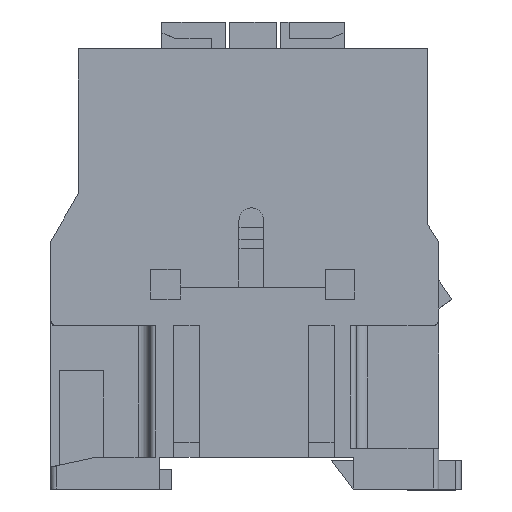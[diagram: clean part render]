
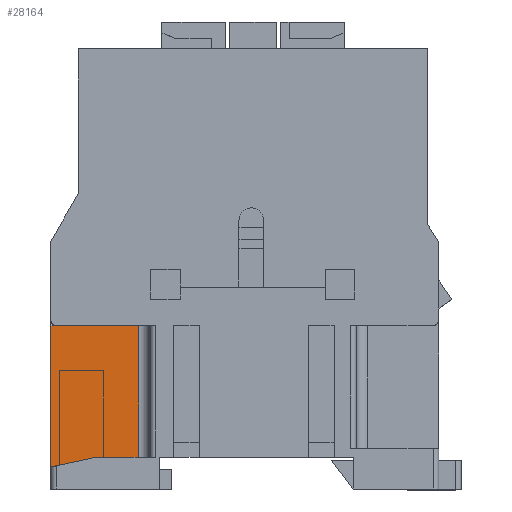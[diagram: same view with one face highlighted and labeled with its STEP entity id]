
A CAD part, top view. The second image highlights one B-rep face of the part: STEP entity #28164.
In plain terms, the highlighted planar face has unit normal (0, 0, 1).
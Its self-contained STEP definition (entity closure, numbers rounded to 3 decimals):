
#237 = LINE ( 'NONE', #24079, #41100 ) ;
#1909 = DIRECTION ( 'NONE',  ( 0.977, 0.212, 0. ) ) ;
#1910 = CARTESIAN_POINT ( 'NONE',  ( -19.25, 0., 34.8 ) ) ;
#1911 = DIRECTION ( 'NONE',  ( 0., 1., 0. ) ) ;
#4415 = AXIS2_PLACEMENT_3D ( 'NONE', #8380, #8381, #8382 ) ;
#5345 = EDGE_LOOP ( 'NONE', ( #7455, #7456, #7457, #7458, #7459 ) ) ;
#7455 = ORIENTED_EDGE ( 'NONE', *, *, #15273, .T. ) ;
#7456 = ORIENTED_EDGE ( 'NONE', *, *, #15278, .T. ) ;
#7457 = ORIENTED_EDGE ( 'NONE', *, *, #15264, .T. ) ;
#7458 = ORIENTED_EDGE ( 'NONE', *, *, #28574, .T. ) ;
#7459 = ORIENTED_EDGE ( 'NONE', *, *, #15277, .T. ) ;
#7619 = VERTEX_POINT ( 'NONE', #33990 ) ;
#7623 = VERTEX_POINT ( 'NONE', #33996 ) ;
#7631 = VERTEX_POINT ( 'NONE', #34009 ) ;
#8361 = PLANE ( 'NONE',  #4415 ) ;
#8380 = CARTESIAN_POINT ( 'NONE',  ( 0., 0., 34.8 ) ) ;
#8381 = DIRECTION ( 'NONE',  ( 0., 0., 1. ) ) ;
#8382 = DIRECTION ( 'NONE',  ( 1., 0., 0. ) ) ;
#8925 = FACE_OUTER_BOUND ( 'NONE', #5345, .T. ) ;
#10412 = VERTEX_POINT ( 'NONE', #37784 ) ;
#15264 = EDGE_CURVE ( 'NONE', #7631, #36869, #41078, .T. ) ;
#15273 = EDGE_CURVE ( 'NONE', #7619, #7623, #237, .T. ) ;
#15277 = EDGE_CURVE ( 'NONE', #10412, #7619, #24336, .T. ) ;
#15278 = EDGE_CURVE ( 'NONE', #7623, #7631, #24339, .T. ) ;
#24017 = CARTESIAN_POINT ( 'NONE',  ( -35.25, -7.8, 34.8 ) ) ;
#24033 = DIRECTION ( 'NONE',  ( -1., 0., 0. ) ) ;
#24068 = DIRECTION ( 'NONE',  ( 1., 0., 0. ) ) ;
#24079 = CARTESIAN_POINT ( 'NONE',  ( -26.95, -31.7, 34.8 ) ) ;
#24102 = CARTESIAN_POINT ( 'NONE',  ( -26.95, -31.7, 34.8 ) ) ;
#24336 = LINE ( 'NONE', #24102, #24338 ) ;
#24338 = VECTOR ( 'NONE', #1909, 1000. ) ;
#24339 = LINE ( 'NONE', #1910, #24342 ) ;
#24342 = VECTOR ( 'NONE', #1911, 1000. ) ;
#25978 = LINE ( 'NONE', #26264, #25981 ) ;
#25981 = VECTOR ( 'NONE', #26265, 1000. ) ;
#26264 = CARTESIAN_POINT ( 'NONE',  ( -35.25, -7.8, 34.8 ) ) ;
#26265 = DIRECTION ( 'NONE',  ( 0., -1., 0. ) ) ;
#28164 = ADVANCED_FACE ( 'NONE', ( #8925 ), #8361, .T. ) ;
#28574 = EDGE_CURVE ( 'NONE', #36869, #10412, #25978, .T. ) ;
#32965 = CARTESIAN_POINT ( 'NONE',  ( -35.25, -7.8, 34.8 ) ) ;
#33990 = CARTESIAN_POINT ( 'NONE',  ( -26.95, -31.7, 34.8 ) ) ;
#33996 = CARTESIAN_POINT ( 'NONE',  ( -19.25, -31.7, 34.8 ) ) ;
#34009 = CARTESIAN_POINT ( 'NONE',  ( -19.25, -7.8, 34.8 ) ) ;
#36869 = VERTEX_POINT ( 'NONE', #32965 ) ;
#37784 = CARTESIAN_POINT ( 'NONE',  ( -35.25, -33.5, 34.8 ) ) ;
#41078 = LINE ( 'NONE', #24017, #41093 ) ;
#41093 = VECTOR ( 'NONE', #24033, 1000. ) ;
#41100 = VECTOR ( 'NONE', #24068, 1000. ) ;
